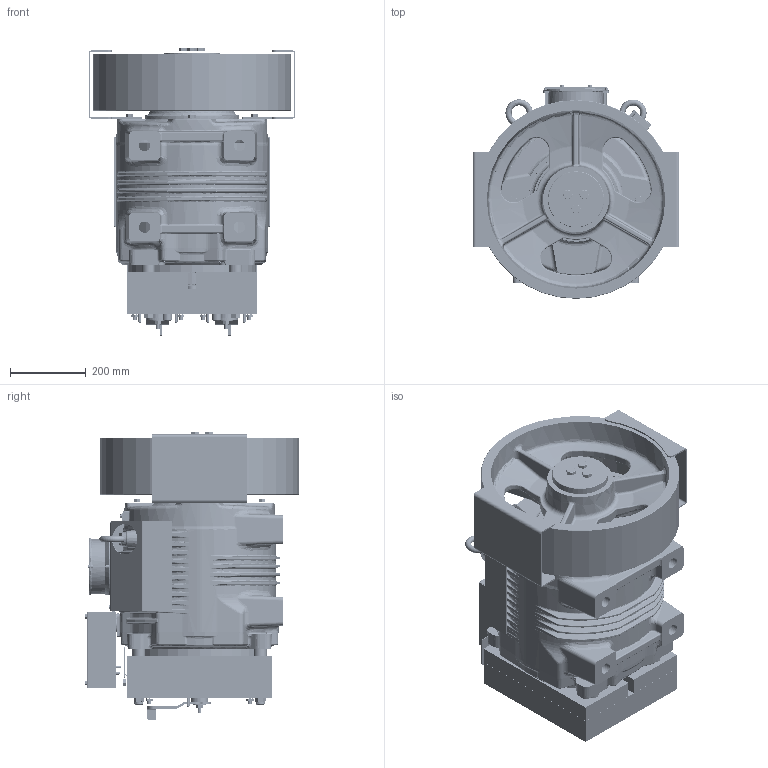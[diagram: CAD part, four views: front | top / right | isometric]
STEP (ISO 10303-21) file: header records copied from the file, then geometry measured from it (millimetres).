
FILE_DESCRIPTION((''),'2;1');
FILE_NAME('00363634_ASM','2020-06-16T',('furlanis'),('Sicor spa'),'CREO PARAMETRIC BY PTC INC, 2017170','CREO PARAMETRIC BY PTC INC, 2017170','');
FILE_SCHEMA(('CONFIG_CONTROL_DESIGN'));
Products named in the file (21): SG62_; _520_150; _520; 00261097; M4_FTT_L; M4_FTT_C; M3_FTT_C; 00261096_ASM; 00008906; 00024268; 00024286_ASM; 00024307; 00259719_M4X60; 00022368; 2080010002; VITI_TC_M4X25_VIT0066; VITI_TC_M3X16_VIT0064; TEM6X12_VIR0184; 00000263; 00268202_ASM; 00363634_ASM
Assembly tree (32 placements, depth 4):
  00363634_ASM
    SG62_
    _520_150
    _520  x2
    00268202_ASM
      00261096_ASM
        00261097
        M4_FTT_L  x2
        M4_FTT_C  x4
        M3_FTT_C  x2
      00024286_ASM
        00008906
        00024268
      00024307
      00259719_M4X60  x2
      00022368
      2080010002
      VITI_TC_M4X25_VIT0066  x2
      VITI_TC_M3X16_VIT0064  x2
      TEM6X12_VIR0184  x4
      00000263
Bounding box: 545 x 563.9 x 759.04 mm (x, y, z)
Volume: 13242437.6 mm3; surface area: 5443081.1 mm2
Topology: 28 solids, 207 shells, 5077 faces, 14033 edges, 8925 vertices
Faces by surface type: plane 1361, cylinder 1237, bspline 1202, torus 644, cone 569, sphere 64
Entity records: 259978 total; most frequent: CARTESIAN_POINT 150490, ORIENTED_EDGE 24062, DIRECTION 19102, EDGE_CURVE 13465, VERTEX_POINT 8618, AXIS2_PLACEMENT_3D 7586, B_SPLINE_CURVE_WITH_KNOTS 5672, EDGE_LOOP 5057
